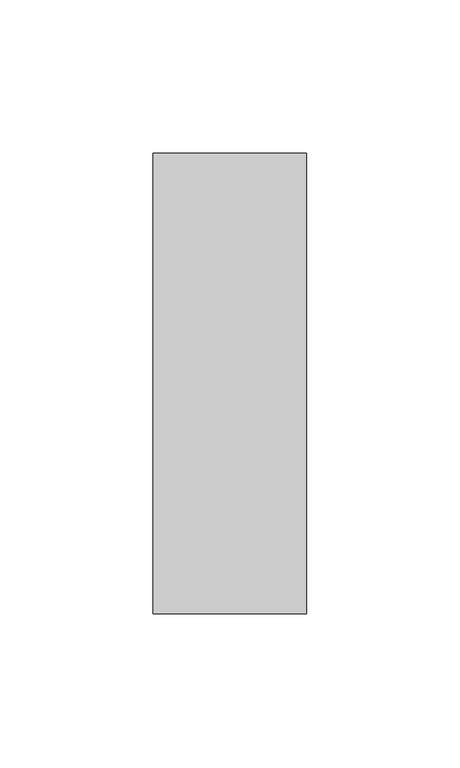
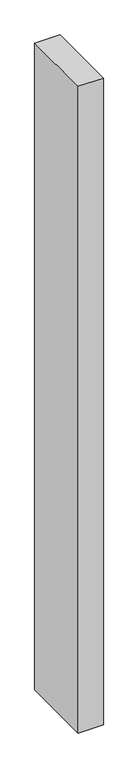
"""IFC4 building model written with IfcOpenShell, lengths in millimetres: member geometry, Прямоугольный импост : 50 x 150 мм."""

from ifc_helpers import new_model, si_unit, frame, origin, place, context, project, spatial, polyline, outline, extrude, source, transform, mapped, element, save


def member_cf934100(model_context):
    return source(origin(), model_context, "Body", "SweptSolid", [
        extrude(outline(polyline([(0.0, 75.0), (0.0, -75.0), (-50.0, -75.0), (-50.0, 75.0), (0.0, 75.0)])), frame((0.0, 0.0, -1359.7907218), z_axis=(0.0, 0.0, 1.0), x_axis=(1.0, 0.0, 0.0)), (0.0, 0.0, 1.0), 1359.7907218),
    ])


if __name__ == "__main__":
    model = new_model("IFC4")
    model_context = context("Model", 3, world=origin())
    ifc_project = project(units=[si_unit("LENGTHUNIT", "METRE", prefix="MILLI")], contexts=[model_context])
    site = spatial("IfcSite", under=ifc_project)
    building = spatial("IfcBuilding", under=site)
    placement = place(None, origin())
    member_shape = member_cf934100(model_context)
    element("IfcMember", 1, ObjectType="Прямоугольный импост : 50 x 150 мм", at=placement, inside=building, context=model_context, shape_type="MappedRepresentation", body=[
        mapped(member_shape, transform((0.0, 0.0, 0.0), x_axis=(1.0, 0.0, 0.0), y_axis=(0.0, 1.0, 0.0), z_axis=(0.0, 0.0, 1.0))),
    ])
    save(model, "model.ifc")
